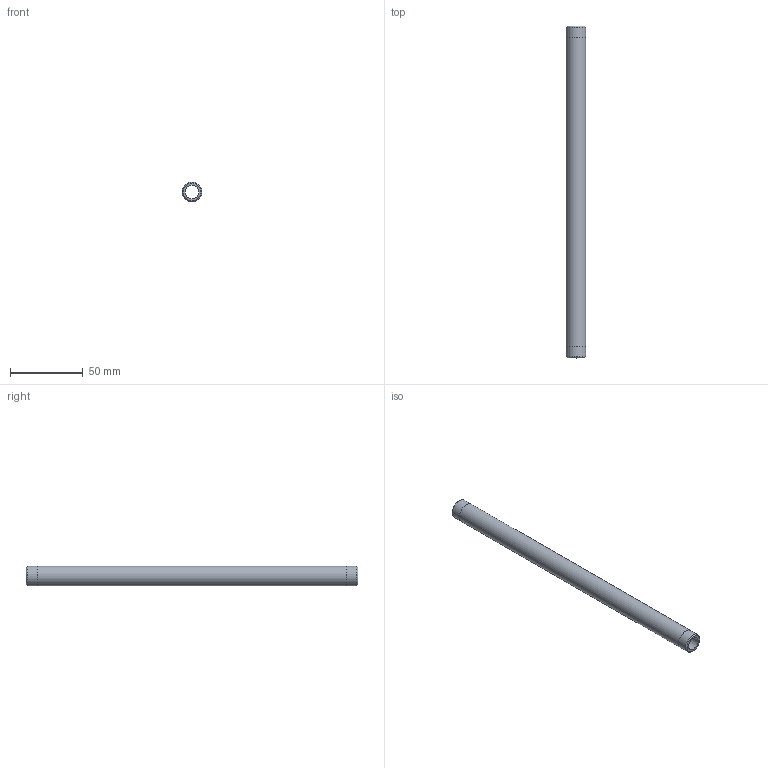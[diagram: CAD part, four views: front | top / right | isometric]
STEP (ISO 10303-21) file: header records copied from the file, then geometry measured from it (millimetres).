
FILE_DESCRIPTION(/* description */ (''),/* implementation_level */ '2;1');
FILE_NAME(/* name */ 'C:/Users/drich/Desktop/SSPN14-9 v1.step',/* time_stamp */ '2020-01-04T13:14:52-06:00',/* author */ (''),/* organization */ (''),/* preprocessor_version */ 'ST-DEVELOPER v18',/* originating_system */ 'Autodesk Translation Framework v8.12.0.6',/* authorisation */ '');
FILE_SCHEMA (('AUTOMOTIVE_DESIGN { 1 0 10303 214 3 1 1 }','PROCESS_PLANNING_SCHEMA'));
Length unit declared in the file: inch
Products named in the file (1): SSPN14-9
Bounding box: 13.72 x 228.6 x 13.72 mm (x, y, z)
Volume: 18388.9 mm3; surface area: 16609.3 mm2
Topology: 1 solids, 1 shells, 10 faces, 24 edges, 18 vertices
Faces by surface type: cylinder 4, plane 4, cone 2
Full cylindrical faces by diameter (mm): 9.246 x1, 13.665 x2, 13.716 x1
Entity records: 353 total; most frequent: DIRECTION 64, CARTESIAN_POINT 53, ORIENTED_EDGE 48, AXIS2_PLACEMENT_3D 29, EDGE_CURVE 24, CIRCLE 18, VERTEX_POINT 18, EDGE_LOOP 14
